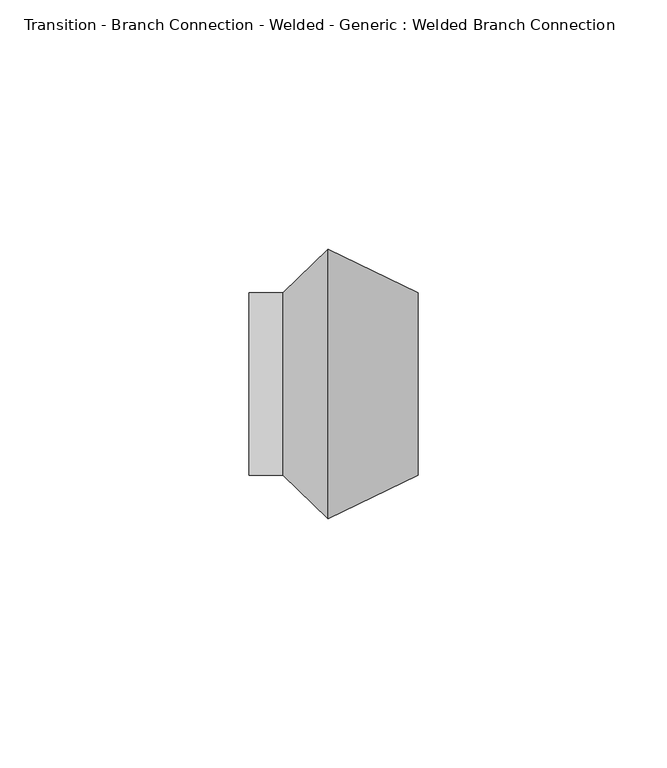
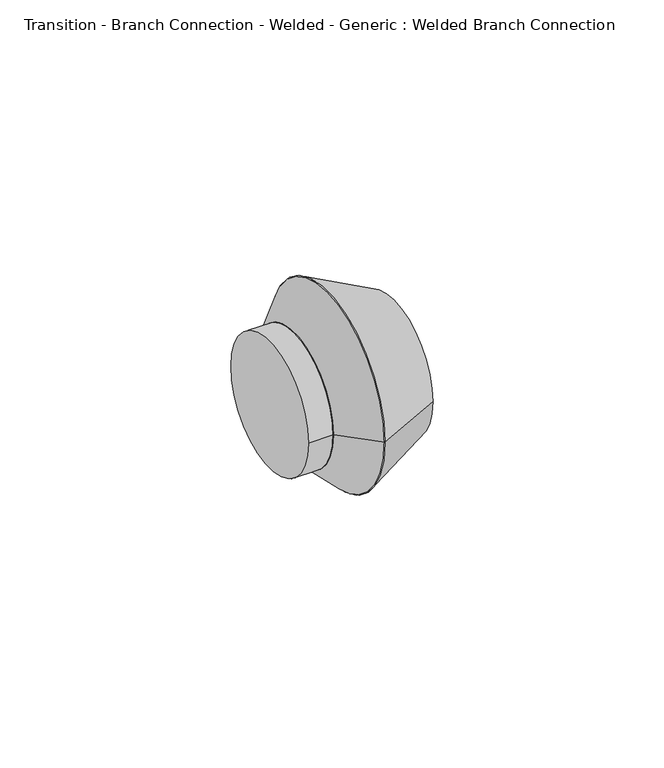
"""IFC4 building model written with IfcOpenShell, lengths in millimetres: pipe fitting geometry, Transition - Branch Connection - Welded - Generic : Welded Branch Connection."""

from ifc_helpers import new_model, si_unit, point, frame, origin, origin_2d, place, context, project, spatial, polyline, circle_curve, trimmed, segment, composite_curve, outline, extrude, source, transform, mapped, element, save
from ifc_brep_helpers import plane_surface, revolved_surface, advanced_brep


def transition_branch_connection_welded_generic_welded_branch_69ef86ff(model_context):
    return source(origin(), model_context, "Body", "SolidModel", [
        advanced_brep(
        [(8.9958333, 26.9875, 0.0), (8.9958333, -26.9875, 0.0), (26.9875, 18.25625, 0.0), (26.9875, -18.25625, 0.0)],
        [
            (0, 1, circle_curve(frame((8.9958333, 0.0, 0.0), z_axis=(-1.0, 0.0, 0.0), x_axis=(0.0, -1.0, 0.0)), 26.9875)),
            (1, 0, circle_curve(frame((8.9958333, 0.0, 0.0), z_axis=(-1.0, 0.0, 0.0), x_axis=(0.0, 1.0, 0.0)), 26.9875)),
            (2, 3, circle_curve(frame((26.9875, 0.0, 0.0), z_axis=(1.0, 0.0, 0.0), x_axis=(0.0, 1.0, 0.0)), 18.25625)),
            (3, 2, circle_curve(frame((26.9875, 0.0, 0.0), z_axis=(1.0, 0.0, 0.0), x_axis=(0.0, -1.0, 0.0)), 18.25625)),
            (3, 1),
            (0, 2),
        ],
        [
            plane_surface(frame((8.9958333, 0.0, 0.0), z_axis=(-1.0, 0.0, 0.0), x_axis=(0.0, 0.0, -1.0))),
            plane_surface(frame((26.9875, 0.0, 0.0), z_axis=(1.0, 0.0, 0.0), x_axis=(0.0, 0.0, -1.0))),
            revolved_surface(polyline([(26.987499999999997, -18.25624999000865, 0.0), (8.995833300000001, -26.9875, 0.0)]), (64.6064394, 0.0, 0.0), (-1.0, 0.0, 0.0)),
            revolved_surface(polyline([(26.987499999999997, 18.25624999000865, 0.0), (8.995833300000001, 26.9875, 0.0)]), (64.6064394, 0.0, 0.0), (-1.0, 0.0, 0.0)),
        ],
        [
            (0, [[1, 2]]),
            (1, [[3, 4]]),
            (2, [[5, -1, 6, -4]]),
            (3, [[-6, -2, -5, -3]]),
        ],
    ),
        advanced_brep(
        [(8.9958333, 26.9875, 0.0), (8.9958333, -26.9875, 0.0), (0.0, 18.25625, 0.0), (0.0, -18.25625, 0.0)],
        [
            (0, 1, circle_curve(frame((8.9958333, 0.0, 0.0), z_axis=(1.0, 0.0, 0.0), x_axis=(0.0, -1.0, 0.0)), 26.9875)),
            (1, 0, circle_curve(frame((8.9958333, 0.0, 0.0), z_axis=(1.0, 0.0, 0.0), x_axis=(0.0, 1.0, 0.0)), 26.9875)),
            (2, 3, circle_curve(frame((0.0, 0.0, 0.0), z_axis=(-1.0, 0.0, 0.0), x_axis=(0.0, 1.0, 0.0)), 18.25625)),
            (3, 2, circle_curve(frame((0.0, 0.0, 0.0), z_axis=(-1.0, 0.0, 0.0), x_axis=(0.0, -1.0, 0.0)), 18.25625)),
            (2, 0),
            (1, 3),
        ],
        [
            plane_surface(frame((8.9958333, 0.0, 0.0), z_axis=(1.0, 0.0, 0.0), x_axis=(0.0, 0.0, -1.0))),
            plane_surface(frame((0.0, 0.0, 0.0), z_axis=(-1.0, 0.0, 0.0), x_axis=(0.0, 0.0, -1.0))),
            revolved_surface(polyline([(0.0, 18.25625002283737, 0.0), (8.995833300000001, 26.9875, 0.0)]), (-18.8094697, 0.0, 0.0), (1.0, 0.0, 0.0)),
            revolved_surface(polyline([(0.0, -18.25625002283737, 0.0), (8.995833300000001, -26.9875, 0.0)]), (-18.8094697, 0.0, 0.0), (1.0, 0.0, 0.0)),
        ],
        [
            (0, [[1, 2]]),
            (1, [[3, 4]]),
            (2, [[5, -2, 6, -3]]),
            (3, [[-6, -1, -5, -4]]),
        ],
    ),
        extrude(outline(composite_curve([segment(trimmed(circle_curve(origin_2d(), 18.25625), [point((18.25625, 0.0))], [point((-18.25625, 0.0))], False, "CARTESIAN"), True, "CONTINUOUS"), segment(trimmed(circle_curve(origin_2d(), 18.25625), [point((-18.25625, 0.0))], [point((18.25625, 0.0))], False, "CARTESIAN"), True, "CONTINUOUS")], self_intersect=False)), frame((-6.8357734, 0.0, 0.0), z_axis=(1.0, 0.0, 0.0), x_axis=(0.0, 1.0, 0.0)), (0.0, 0.0, 1.0), 6.8357734),
    ])


if __name__ == "__main__":
    model = new_model("IFC4")
    model_context = context("Model", 3, world=origin())
    ifc_project = project(units=[si_unit("LENGTHUNIT", "METRE", prefix="MILLI")], contexts=[model_context])
    site = spatial("IfcSite", under=ifc_project)
    building = spatial("IfcBuilding", under=site)
    placement = place(None, origin())
    transition_branch_connection_welded_generic_welded_branch_shape = transition_branch_connection_welded_generic_welded_branch_69ef86ff(model_context)
    element("IfcPipeFitting", 1, ObjectType="Transition - Branch Connection - Welded - Generic : Welded Branch Connection", at=placement, inside=building, context=model_context, shape_type="MappedRepresentation", body=[
        mapped(transition_branch_connection_welded_generic_welded_branch_shape, transform((0.0, 0.0, 0.0), x_axis=(1.0, 0.0, 0.0), y_axis=(0.0, 1.0, 0.0), z_axis=(0.0, 0.0, 1.0))),
    ])
    save(model, "model.ifc")
